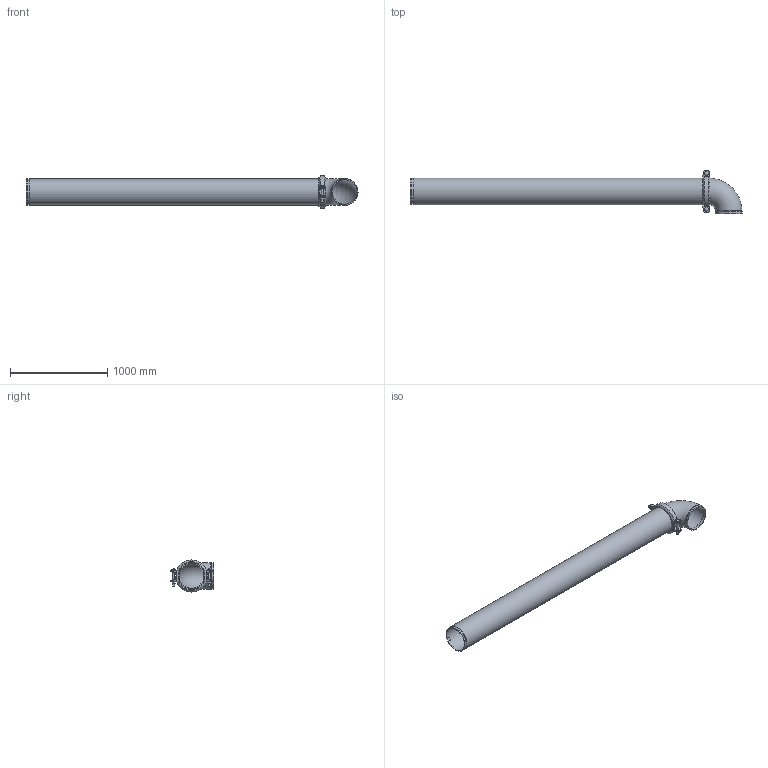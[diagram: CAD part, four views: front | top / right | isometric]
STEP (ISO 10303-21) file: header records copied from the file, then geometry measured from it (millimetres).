
FILE_DESCRIPTION(/* description */ ('VIC LONG RUN FITTING No R13 (OGS)','CAx-IF Rec.Pracs.---Representation and Presentation of Product Manufacturing Information (PMI)---4.0---2014-10-13'),/* implementation_level */ '2;1');
FILE_NAME(/* name */ 'C:\Users\Vjadhav\AppData\Roaming\Autodesk\ApplicationPlugins\Back Up\Victaulic_IPS_Long Run Fittings_No R13 (OGS)\Victaulic_IPS_Long Run Fittings_No R13 (OGS)_10 (250).stp',/* time_stamp */ '2020-10-06T18:26:56+06:00',/* author */ ('Vjadhav'),/* organization */ ('Victaulic'),/* preprocessor_version */ 'ST-DEVELOPER v17.2',/* originating_system */ 'Autodesk Inventor 2019',/* authorisation */ '');
FILE_SCHEMA (('AP242_MANAGED_MODEL_BASED_3D_ENGINEERING_MIM_LF { 1 0 10303 442 1 1 4 }'));
Length unit declared in the file: inch
Products named in the file (4): R13-10.0; 010-10.0; 107N-10.0; Pipe_R13-10.0
Assembly tree (3 placements, depth 2):
  R13-10.0
    010-10.0
    107N-10.0
    Pipe_R13-10.0
Bounding box: 3418.2 x 446.15 x 330.2 mm (x, y, z)
Volume: 28294499.3 mm3; surface area: 5955616.4 mm2
Topology: 3 solids, 3 shells, 145 faces, 371 edges, 248 vertices
Faces by surface type: plane 62, cylinder 59, bspline 16, cone 4, torus 2, sphere 2
Full cylindrical faces by diameter (mm): 22.225 x4, 37.694 x2, 254.508 x3, 260.35 x1, 268.275 x4, 273.05 x7
Entity records: 5624 total; most frequent: CARTESIAN_POINT 1679, DIRECTION 797, ORIENTED_EDGE 742, EDGE_CURVE 371, AXIS2_PLACEMENT_3D 310, VERTEX_POINT 248, LINE 177, VECTOR 177
